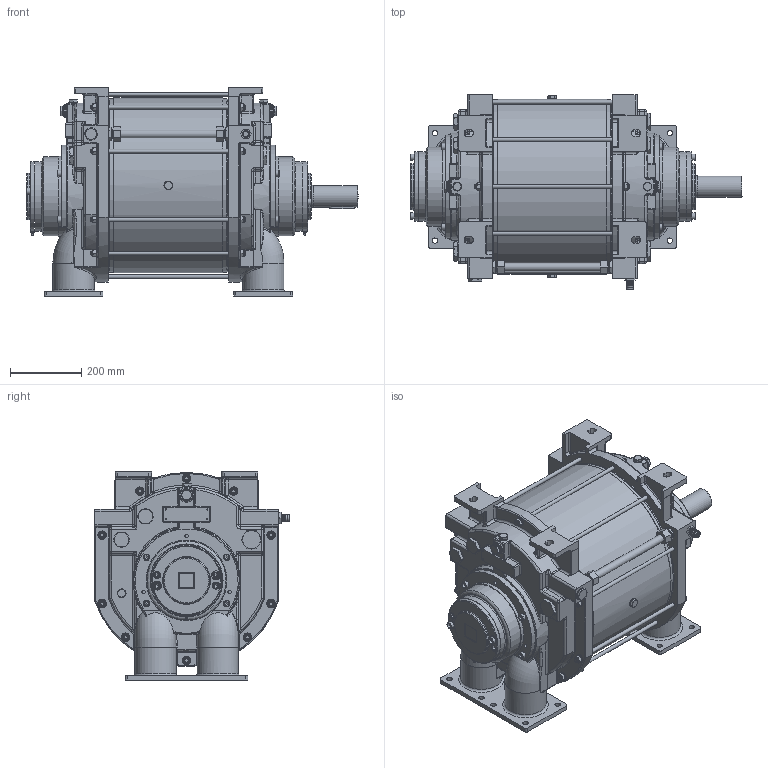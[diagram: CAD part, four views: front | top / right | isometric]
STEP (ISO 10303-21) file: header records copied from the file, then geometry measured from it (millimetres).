
FILE_DESCRIPTION(/* description */ ('','CAx-IF Rec.Pracs.---Representation and Presentation of Product Manufacturing Information (PMI)---4.0---2014-10-13'),/* implementation_level */ '2;1');
FILE_NAME(/* name */ 'E:\WorkSpace\Designs\1700\1700050.stp',/* time_stamp */ '2022-08-03T12:49:37+02:00',/* author */ ('JJ'),/* organization */ (''),/* preprocessor_version */ 'ST-DEVELOPER v18.1',/* originating_system */ 'Autodesk Inventor 2022',/* authorisation */ '');
FILE_SCHEMA (('AP242_MANAGED_MODEL_BASED_3D_ENGINEERING_MIM_LF { 1 0 10303 442 1 1 4 }'));
Products named in the file (1): 1700050
Bounding box: 932.5 x 545.5 x 585 mm (x, y, z)
Volume: 119182180 mm3; surface area: 2359580.8 mm2
Topology: 1 solids, 1 shells, 2018 faces, 4788 edges, 2918 vertices
Faces by surface type: plane 749, cylinder 639, cone 225, torus 191, bspline 142, sphere 72
Full cylindrical faces by diameter (mm): 3.3 x8, 8 x2, 10.106 x6, 10.75 x10, 12 x44, 13 x24, 15 x17, 17.294 x1, 18 x16, 19.847 x1, 19.984 x1, 20 x7, 21.8 x6, 22 x1, 23.8 x6, 24 x20, 24.5 x4, 26 x2, 27 x2, 28.58 x2, 30 x2, 31.8 x3, 34.93 x1, 35 x2, 39.8 x4, 42.8 x4, 49.8 x2, 52.38 x2, 60 x1, 62 x1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
Entity records: 66877 total; most frequent: CARTESIAN_POINT 19987, ORIENTED_EDGE 9430, DIRECTION 9327, EDGE_CURVE 4715, AXIS2_PLACEMENT_3D 3786, VERTEX_POINT 2918, EDGE_LOOP 2323, STYLED_ITEM 2020
